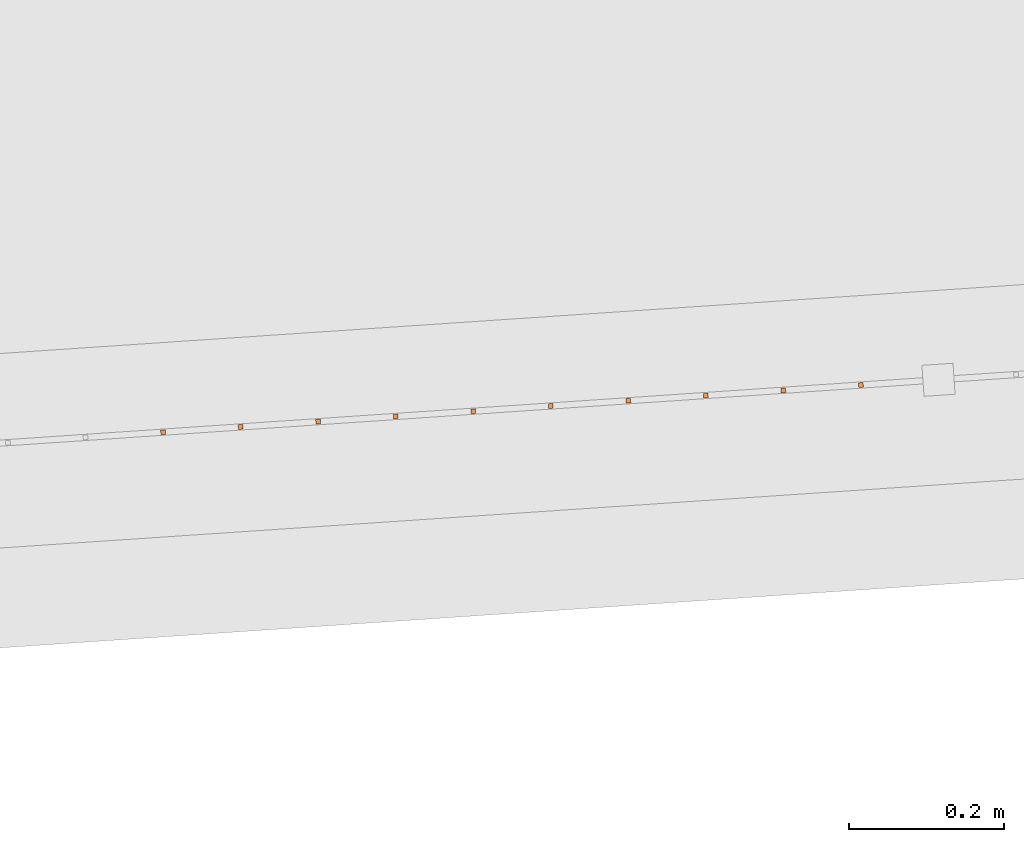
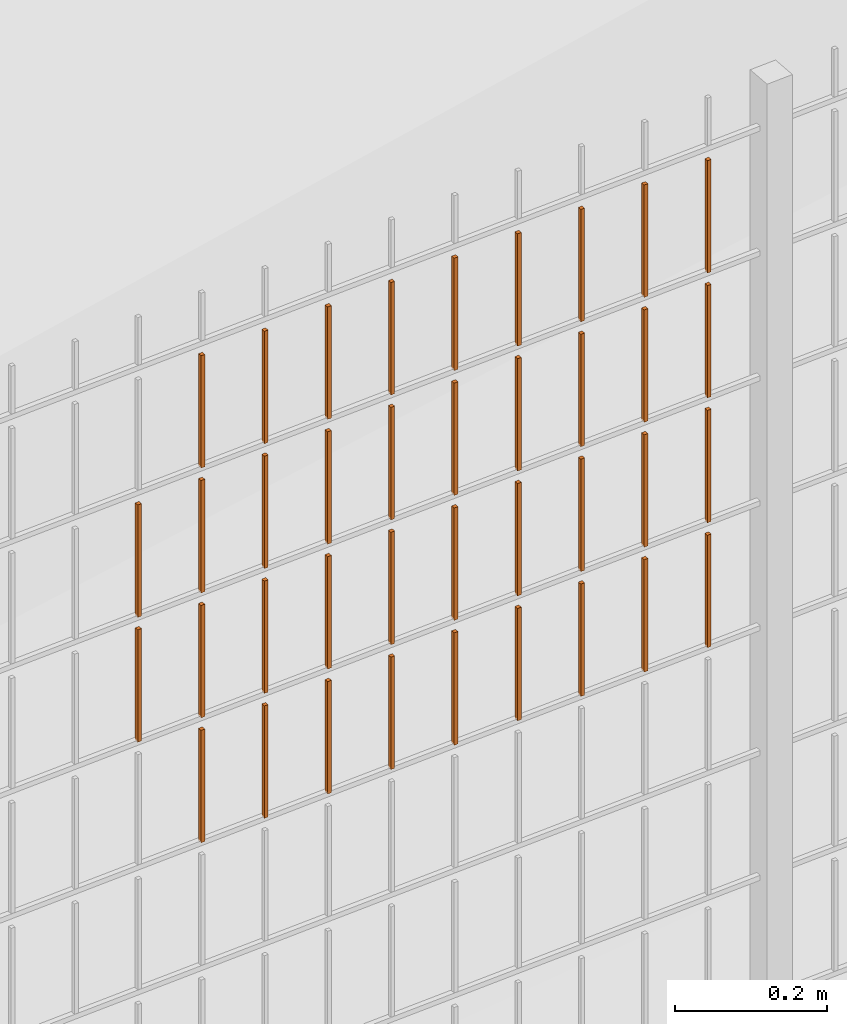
# One storey, part 110 of 1809: 38 proxies, 1 element without a shape of its own.
"""IFC2X3 building model written with IfcOpenShell, lengths in millimetres."""

from ifc_helpers import new_model, entity, si_unit, converted_unit, derived_unit, money_unit, direction, frame, origin_with_axes, place, context, subcontext, project, spatial, faceted_brep, source, transform, mapped, material, type_object, element, aggregate, save


model = new_model("IFC2X3")

# Units and contexts
model_context = context("Model", 3, precision=0.01, world=origin_with_axes(), true_north=direction((0.0, 1.0)))
body_context = subcontext(model_context, "Body", "Model", "MODEL_VIEW")
ifc_project = project(units=[si_unit("LENGTHUNIT", "METRE", prefix="MILLI"), si_unit("AREAUNIT", "SQUARE_METRE"), si_unit("VOLUMEUNIT", "CUBIC_METRE"), converted_unit("PLANEANGLEUNIT", "DEGREE", entity("IfcPlaneAngleMeasure", 0.0174532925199), si_unit("PLANEANGLEUNIT", "RADIAN"), dimensions=[0, 0, 0, 0, 0, 0, 0]), si_unit("SOLIDANGLEUNIT", "STERADIAN"), money_unit("EUR"), converted_unit("TIMEUNIT", "Year", entity("IfcTimeMeasure", 31556926.0), si_unit("TIMEUNIT", "SECOND"), dimensions=[0, 0, 1, 0, 0, 0, 0]), si_unit("MASSUNIT", "GRAM", prefix="KILO"), si_unit("THERMODYNAMICTEMPERATUREUNIT", "DEGREE_CELSIUS"), si_unit("LUMINOUSINTENSITYUNIT", "LUMEN"), si_unit("ENERGYUNIT", "JOULE", prefix="MEGA"), derived_unit("THERMALCONDUCTANCEUNIT", [(si_unit("POWERUNIT", "WATT"), 1), (si_unit("LENGTHUNIT", "METRE"), -1), (si_unit("THERMODYNAMICTEMPERATUREUNIT", "KELVIN"), -1)]), derived_unit("SPECIFICHEATCAPACITYUNIT", [(si_unit("ENERGYUNIT", "JOULE"), 1), (si_unit("MASSUNIT", "GRAM", prefix="KILO"), -1), (si_unit("THERMODYNAMICTEMPERATUREUNIT", "KELVIN"), -1)]), derived_unit("MASSDENSITYUNIT", [(si_unit("MASSUNIT", "GRAM", prefix="KILO"), 1), (si_unit("VOLUMEUNIT", "CUBIC_METRE"), -1)])], contexts=[model_context])

# Site, building, storey
site_placement = place(None, origin_with_axes())
site = spatial("IfcSite", under=ifc_project, at=site_placement, Name="Politse- ja Piirivalveameti ning Päästeameti ühishoone", CompositionType="ELEMENT")
building_placement = place(site_placement, origin_with_axes())
building = spatial("IfcBuilding", under=site, at=building_placement, Name="Politse- ja Piirivalveameti ning Päästeameti ühishoone", CompositionType="ELEMENT")
storey_placement = place(building_placement, origin_with_axes())
storey = spatial("IfcBuildingStorey", under=building, at=storey_placement, Name="Esimene korrus", CompositionType="ELEMENT", Elevation=0.0)

# Proxies
building_element_proxy_type_1 = type_object("IfcBuildingElementProxyType", Name="Railing Type", PredefinedType="NOTDEFINED")
proxy_1_placement = place(storey_placement, frame((89252.001212, -29183.4766571, 203.661247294), z_axis=(0.0, 0.0, 1.0), x_axis=(1.0, 0.0, 0.0)))
proxy_1 = element("IfcBuildingElementProxy", 1, at=proxy_1_placement, inside=storey, type_object=building_element_proxy_type_1, Name="PIIRDEAED")
ifc_material = material(Name="ET-03_Raud")
building_element_proxy_type_2 = type_object("IfcBuildingElementProxyType", Name="IfcBuildingElementProxy", PredefinedType="NOTDEFINED")
shared_shape_1 = source(origin_with_axes(), body_context, "Body", "Brep", [
    faceted_brep([(3.0, 3.0, -0.000752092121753), (-3.0, 3.0, -0.000752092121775), (-3.0, 3.0, 179.99926046), (3.0, 3.0, 179.99926046), (3.0, -3.0, 0.000752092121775), (-3.0, -3.0, 0.000752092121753), (-3.0, -3.0, 180.000764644), (3.0, -3.0, 180.000764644)], [[[0, 1, 2, 3]], [[0, 4, 5, 1]], [[1, 5, 6, 2]], [[3, 2, 6, 7]], [[4, 0, 3, 7]], [[5, 4, 7, 6]]]),
])
proxy_2_placement = place(proxy_1_placement, frame((-92416.1039948, -23540.1338207, 1204.01311808), z_axis=(0.0, 0.0, 1.0), x_axis=(1.0, 0.0, 0.0)))
proxy_2 = element("IfcBuildingElementProxy", 2, at=proxy_2_placement, type_object=building_element_proxy_type_2, material=ifc_material, Name="BALUSTER - 001", context=body_context, shape_type="MappedRepresentation", body=[
    mapped(shared_shape_1, transform((0.0, 0.0, 0.0), x_axis=(-0.0673926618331, 0.997726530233, 0.0), y_axis=(-0.997726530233, -0.0673926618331, 0.0), z_axis=(0.0, 0.0, 1.0))),
])
shared_shape_2 = source(origin_with_axes(), body_context, "Body", "Brep", [
    faceted_brep([(3.0, 3.0, -0.000752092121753), (-3.0, 3.0, -0.000752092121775), (-3.0, 3.0, 179.99926046), (3.0, 3.0, 179.99926046), (3.0, -3.0, 0.000752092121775), (-3.0, -3.0, 0.000752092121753), (-3.0, -3.0, 180.000764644), (3.0, -3.0, 180.000764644)], [[[0, 1, 2, 3]], [[0, 4, 5, 1]], [[1, 5, 6, 2]], [[3, 2, 6, 7]], [[4, 0, 3, 7]], [[5, 4, 7, 6]]]),
])
proxy_3_placement = place(proxy_1_placement, frame((-92416.1039948, -23540.1338207, 1804.01311808), z_axis=(0.0, 0.0, 1.0), x_axis=(1.0, 0.0, 0.0)))
proxy_3 = element("IfcBuildingElementProxy", 3, at=proxy_3_placement, type_object=building_element_proxy_type_2, material=ifc_material, Name="BALUSTER - 001", context=body_context, shape_type="MappedRepresentation", body=[
    mapped(shared_shape_2, transform((0.0, 0.0, 0.0), x_axis=(-0.0673926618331, 0.997726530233, 0.0), y_axis=(-0.997726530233, -0.0673926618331, 0.0), z_axis=(0.0, 0.0, 1.0))),
])
shared_shape_3 = source(origin_with_axes(), body_context, "Body", "Brep", [
    faceted_brep([(3.0, 3.0, -0.000752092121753), (-3.0, 3.0, -0.000752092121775), (-3.0, 3.0, 179.99926046), (3.0, 3.0, 179.99926046), (3.0, -3.0, 0.000752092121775), (-3.0, -3.0, 0.000752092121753), (-3.0, -3.0, 180.000764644), (3.0, -3.0, 180.000764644)], [[[0, 1, 2, 3]], [[0, 4, 5, 1]], [[1, 5, 6, 2]], [[3, 2, 6, 7]], [[4, 0, 3, 7]], [[5, 4, 7, 6]]]),
])
proxy_4_placement = place(proxy_1_placement, frame((-92416.1039948, -23540.1338207, 1404.01311808), z_axis=(0.0, 0.0, 1.0), x_axis=(1.0, 0.0, 0.0)))
proxy_4 = element("IfcBuildingElementProxy", 4, at=proxy_4_placement, type_object=building_element_proxy_type_2, material=ifc_material, Name="BALUSTER - 001", context=body_context, shape_type="MappedRepresentation", body=[
    mapped(shared_shape_3, transform((0.0, 0.0, 0.0), x_axis=(-0.0673926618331, 0.997726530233, 0.0), y_axis=(-0.997726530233, -0.0673926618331, 0.0), z_axis=(0.0, 0.0, 1.0))),
])
proxy_5_placement = place(proxy_1_placement, frame((-92416.1039948, -23540.1338207, 1604.01311808), z_axis=(0.0, 0.0, 1.0), x_axis=(1.0, 0.0, 0.0)))
proxy_5 = element("IfcBuildingElementProxy", 5, at=proxy_5_placement, type_object=building_element_proxy_type_2, material=ifc_material, Name="BALUSTER - 001", context=body_context, shape_type="MappedRepresentation", body=[
    mapped(shared_shape_3, transform((0.0, 0.0, 0.0), x_axis=(-0.0673926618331, 0.997726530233, 0.0), y_axis=(-0.997726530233, -0.0673926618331, 0.0), z_axis=(0.0, 0.0, 1.0))),
])
shared_shape_4 = source(origin_with_axes(), body_context, "Body", "Brep", [
    faceted_brep([(3.0, 3.0, -0.000752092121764), (-3.0, 3.0, -0.000752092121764), (-3.0, 3.0, 179.99926046), (3.0, 3.0, 179.99926046), (3.0, -3.0, 0.000752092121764), (-3.0, -3.0, 0.000752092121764), (-3.0, -3.0, 180.000764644), (3.0, -3.0, 180.000764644)], [[[0, 1, 2, 3]], [[0, 4, 5, 1]], [[1, 5, 6, 2]], [[3, 2, 6, 7]], [[4, 0, 3, 7]], [[5, 4, 7, 6]]]),
])
proxy_6_placement = place(proxy_1_placement, frame((-92316.3313417, -23533.3945545, 1804.03818782), z_axis=(0.0, 0.0, 1.0), x_axis=(1.0, 0.0, 0.0)))
proxy_6 = element("IfcBuildingElementProxy", 6, at=proxy_6_placement, type_object=building_element_proxy_type_2, material=ifc_material, Name="BALUSTER - 001", context=body_context, shape_type="MappedRepresentation", body=[
    mapped(shared_shape_4, transform((0.0, 0.0, 0.0), x_axis=(-0.0673926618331, 0.997726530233, 0.0), y_axis=(-0.997726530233, -0.0673926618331, 0.0), z_axis=(0.0, 0.0, 1.0))),
])
shared_shape_5 = source(origin_with_axes(), body_context, "Body", "Brep", [
    faceted_brep([(3.0, 3.0, -0.000752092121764), (-3.0, 3.0, -0.000752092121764), (-3.0, 3.0, 179.99926046), (3.0, 3.0, 179.99926046), (3.0, -3.0, 0.000752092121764), (-3.0, -3.0, 0.000752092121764), (-3.0, -3.0, 180.000764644), (3.0, -3.0, 180.000764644)], [[[0, 1, 2, 3]], [[0, 4, 5, 1]], [[1, 5, 6, 2]], [[3, 2, 6, 7]], [[4, 0, 3, 7]], [[5, 4, 7, 6]]]),
])
proxy_7_placement = place(proxy_1_placement, frame((-92316.3313417, -23533.3945545, 1204.03818782), z_axis=(0.0, 0.0, 1.0), x_axis=(1.0, 0.0, 0.0)))
proxy_7 = element("IfcBuildingElementProxy", 7, at=proxy_7_placement, type_object=building_element_proxy_type_2, material=ifc_material, Name="BALUSTER - 001", context=body_context, shape_type="MappedRepresentation", body=[
    mapped(shared_shape_5, transform((0.0, 0.0, 0.0), x_axis=(-0.0673926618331, 0.997726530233, 0.0), y_axis=(-0.997726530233, -0.0673926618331, 0.0), z_axis=(0.0, 0.0, 1.0))),
])
shared_shape_6 = source(origin_with_axes(), body_context, "Body", "Brep", [
    faceted_brep([(3.0, 3.0, -0.000752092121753), (-3.0, 3.0, -0.000752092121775), (-3.0, 3.0, 179.99926046), (3.0, 3.0, 179.99926046), (3.0, -3.0, 0.000752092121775), (-3.0, -3.0, 0.000752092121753), (-3.0, -3.0, 180.000764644), (3.0, -3.0, 180.000764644)], [[[0, 1, 2, 3]], [[0, 4, 5, 1]], [[1, 5, 6, 2]], [[3, 2, 6, 7]], [[4, 0, 3, 7]], [[5, 4, 7, 6]]]),
])
proxy_8_placement = place(proxy_1_placement, frame((-92615.6493008, -23553.612353, 1203.96297861), z_axis=(0.0, 0.0, 1.0), x_axis=(1.0, 0.0, 0.0)))
proxy_8 = element("IfcBuildingElementProxy", 8, at=proxy_8_placement, type_object=building_element_proxy_type_2, material=ifc_material, Name="BALUSTER - 001", context=body_context, shape_type="MappedRepresentation", body=[
    mapped(shared_shape_6, transform((0.0, 0.0, 0.0), x_axis=(-0.0673926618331, 0.997726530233, 0.0), y_axis=(-0.997726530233, -0.0673926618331, 0.0), z_axis=(0.0, 0.0, 1.0))),
])
shared_shape_7 = source(origin_with_axes(), body_context, "Body", "Brep", [
    faceted_brep([(3.0, 3.0, -0.000752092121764), (-3.0, 3.0, -0.000752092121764), (-3.0, 3.0, 179.99926046), (3.0, 3.0, 179.99926046), (3.0, -3.0, 0.000752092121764), (-3.0, -3.0, 0.000752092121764), (-3.0, -3.0, 180.000764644), (3.0, -3.0, 180.000764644)], [[[0, 1, 2, 3]], [[0, 4, 5, 1]], [[1, 5, 6, 2]], [[3, 2, 6, 7]], [[4, 0, 3, 7]], [[5, 4, 7, 6]]]),
])
proxy_9_placement = place(proxy_1_placement, frame((-92316.3313417, -23533.3945545, 1404.03818782), z_axis=(0.0, 0.0, 1.0), x_axis=(1.0, 0.0, 0.0)))
proxy_9 = element("IfcBuildingElementProxy", 9, at=proxy_9_placement, type_object=building_element_proxy_type_2, material=ifc_material, Name="BALUSTER - 001", context=body_context, shape_type="MappedRepresentation", body=[
    mapped(shared_shape_7, transform((0.0, 0.0, 0.0), x_axis=(-0.0673926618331, 0.997726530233, 0.0), y_axis=(-0.997726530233, -0.0673926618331, 0.0), z_axis=(0.0, 0.0, 1.0))),
])
proxy_10_placement = place(proxy_1_placement, frame((-92316.3313417, -23533.3945545, 1604.03818782), z_axis=(0.0, 0.0, 1.0), x_axis=(1.0, 0.0, 0.0)))
proxy_10 = element("IfcBuildingElementProxy", 10, at=proxy_10_placement, type_object=building_element_proxy_type_2, material=ifc_material, Name="BALUSTER - 001", context=body_context, shape_type="MappedRepresentation", body=[
    mapped(shared_shape_7, transform((0.0, 0.0, 0.0), x_axis=(-0.0673926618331, 0.997726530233, 0.0), y_axis=(-0.997726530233, -0.0673926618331, 0.0), z_axis=(0.0, 0.0, 1.0))),
])
shared_shape_8 = source(origin_with_axes(), body_context, "Body", "Brep", [
    faceted_brep([(3.0, 3.0, -0.000752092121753), (-3.0, 3.0, -0.000752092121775), (-3.0, 3.0, 179.99926046), (3.0, 3.0, 179.99926046), (3.0, -3.0, 0.000752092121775), (-3.0, -3.0, 0.000752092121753), (-3.0, -3.0, 180.000764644), (3.0, -3.0, 180.000764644)], [[[0, 1, 2, 3]], [[0, 4, 5, 1]], [[1, 5, 6, 2]], [[3, 2, 6, 7]], [[4, 0, 3, 7]], [[5, 4, 7, 6]]]),
])
proxy_11_placement = place(proxy_1_placement, frame((-92615.6493008, -23553.612353, 1403.96297861), z_axis=(0.0, 0.0, 1.0), x_axis=(1.0, 0.0, 0.0)))
proxy_11 = element("IfcBuildingElementProxy", 11, at=proxy_11_placement, type_object=building_element_proxy_type_2, material=ifc_material, Name="BALUSTER - 001", context=body_context, shape_type="MappedRepresentation", body=[
    mapped(shared_shape_8, transform((0.0, 0.0, 0.0), x_axis=(-0.0673926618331, 0.997726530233, 0.0), y_axis=(-0.997726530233, -0.0673926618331, 0.0), z_axis=(0.0, 0.0, 1.0))),
])
proxy_12_placement = place(proxy_1_placement, frame((-92615.6493008, -23553.612353, 1603.96297861), z_axis=(0.0, 0.0, 1.0), x_axis=(1.0, 0.0, 0.0)))
proxy_12 = element("IfcBuildingElementProxy", 12, at=proxy_12_placement, type_object=building_element_proxy_type_2, material=ifc_material, Name="BALUSTER - 001", context=body_context, shape_type="MappedRepresentation", body=[
    mapped(shared_shape_8, transform((0.0, 0.0, 0.0), x_axis=(-0.0673926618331, 0.997726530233, 0.0), y_axis=(-0.997726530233, -0.0673926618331, 0.0), z_axis=(0.0, 0.0, 1.0))),
])
shared_shape_9 = source(origin_with_axes(), body_context, "Body", "Brep", [
    faceted_brep([(3.0, 3.0, -0.000752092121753), (-3.0, 3.0, -0.000752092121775), (-3.0, 3.0, 179.99926046), (3.0, 3.0, 179.99926046), (3.0, -3.0, 0.000752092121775), (-3.0, -3.0, 0.000752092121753), (-3.0, -3.0, 180.000764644), (3.0, -3.0, 180.000764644)], [[[0, 1, 2, 3]], [[0, 4, 5, 1]], [[1, 5, 6, 2]], [[3, 2, 6, 7]], [[4, 0, 3, 7]], [[5, 4, 7, 6]]]),
])
proxy_13_placement = place(proxy_1_placement, frame((-92815.1946069, -23567.0908854, 1203.91283913), z_axis=(0.0, 0.0, 1.0), x_axis=(1.0, 0.0, 0.0)))
proxy_13 = element("IfcBuildingElementProxy", 13, at=proxy_13_placement, type_object=building_element_proxy_type_2, material=ifc_material, Name="BALUSTER - 001", context=body_context, shape_type="MappedRepresentation", body=[
    mapped(shared_shape_9, transform((0.0, 0.0, 0.0), x_axis=(-0.0673926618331, 0.997726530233, 0.0), y_axis=(-0.997726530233, -0.0673926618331, 0.0), z_axis=(0.0, 0.0, 1.0))),
])
proxy_14_placement = place(proxy_1_placement, frame((-92615.6493008, -23553.612353, 1803.96297861), z_axis=(0.0, 0.0, 1.0), x_axis=(1.0, 0.0, 0.0)))
proxy_14 = element("IfcBuildingElementProxy", 14, at=proxy_14_placement, type_object=building_element_proxy_type_2, material=ifc_material, Name="BALUSTER - 001", context=body_context, shape_type="MappedRepresentation", body=[
    mapped(shared_shape_9, transform((0.0, 0.0, 0.0), x_axis=(-0.0673926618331, 0.997726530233, 0.0), y_axis=(-0.997726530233, -0.0673926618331, 0.0), z_axis=(0.0, 0.0, 1.0))),
])
shared_shape_10 = source(origin_with_axes(), body_context, "Body", "Brep", [
    faceted_brep([(3.0, 3.0, -0.000752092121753), (-3.0, 3.0, -0.000752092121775), (-3.0, 3.0, 179.99926046), (3.0, 3.0, 179.99926046), (3.0, -3.0, 0.000752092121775), (-3.0, -3.0, 0.000752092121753), (-3.0, -3.0, 180.000764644), (3.0, -3.0, 180.000764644)], [[[0, 1, 2, 3]], [[0, 4, 5, 1]], [[1, 5, 6, 2]], [[3, 2, 6, 7]], [[4, 0, 3, 7]], [[5, 4, 7, 6]]]),
])
proxy_15_placement = place(proxy_1_placement, frame((-92815.1946069, -23567.0908854, 1803.91283913), z_axis=(0.0, 0.0, 1.0), x_axis=(1.0, 0.0, 0.0)))
proxy_15 = element("IfcBuildingElementProxy", 15, at=proxy_15_placement, type_object=building_element_proxy_type_2, material=ifc_material, Name="BALUSTER - 001", context=body_context, shape_type="MappedRepresentation", body=[
    mapped(shared_shape_10, transform((0.0, 0.0, 0.0), x_axis=(-0.0673926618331, 0.997726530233, 0.0), y_axis=(-0.997726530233, -0.0673926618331, 0.0), z_axis=(0.0, 0.0, 1.0))),
])
shared_shape_11 = source(origin_with_axes(), body_context, "Body", "Brep", [
    faceted_brep([(3.0, 3.0, -0.000752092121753), (-3.0, 3.0, -0.000752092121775), (-3.0, 3.0, 179.99926046), (3.0, 3.0, 179.99926046), (3.0, -3.0, 0.000752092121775), (-3.0, -3.0, 0.000752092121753), (-3.0, -3.0, 180.000764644), (3.0, -3.0, 180.000764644)], [[[0, 1, 2, 3]], [[0, 4, 5, 1]], [[1, 5, 6, 2]], [[3, 2, 6, 7]], [[4, 0, 3, 7]], [[5, 4, 7, 6]]]),
])
proxy_16_placement = place(proxy_1_placement, frame((-92815.1946069, -23567.0908854, 1403.91283913), z_axis=(0.0, 0.0, 1.0), x_axis=(1.0, 0.0, 0.0)))
proxy_16 = element("IfcBuildingElementProxy", 16, at=proxy_16_placement, type_object=building_element_proxy_type_2, material=ifc_material, Name="BALUSTER - 001", context=body_context, shape_type="MappedRepresentation", body=[
    mapped(shared_shape_11, transform((0.0, 0.0, 0.0), x_axis=(-0.0673926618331, 0.997726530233, 0.0), y_axis=(-0.997726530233, -0.0673926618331, 0.0), z_axis=(0.0, 0.0, 1.0))),
])
proxy_17_placement = place(proxy_1_placement, frame((-92815.1946069, -23567.0908854, 1603.91283913), z_axis=(0.0, 0.0, 1.0), x_axis=(1.0, 0.0, 0.0)))
proxy_17 = element("IfcBuildingElementProxy", 17, at=proxy_17_placement, type_object=building_element_proxy_type_2, material=ifc_material, Name="BALUSTER - 001", context=body_context, shape_type="MappedRepresentation", body=[
    mapped(shared_shape_11, transform((0.0, 0.0, 0.0), x_axis=(-0.0673926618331, 0.997726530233, 0.0), y_axis=(-0.997726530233, -0.0673926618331, 0.0), z_axis=(0.0, 0.0, 1.0))),
])
shared_shape_12 = source(origin_with_axes(), body_context, "Body", "Brep", [
    faceted_brep([(3.0, 3.0, -0.000752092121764), (-3.0, 3.0, -0.000752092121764), (-3.0, 3.0, 179.99926046), (3.0, 3.0, 179.99926046), (3.0, -3.0, 0.000752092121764), (-3.0, -3.0, 0.000752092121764), (-3.0, -3.0, 180.000764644), (3.0, -3.0, 180.000764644)], [[[0, 1, 2, 3]], [[0, 4, 5, 1]], [[1, 5, 6, 2]], [[3, 2, 6, 7]], [[4, 0, 3, 7]], [[5, 4, 7, 6]]]),
])
proxy_18_placement = place(proxy_1_placement, frame((-93014.7399129, -23580.5694178, 1803.86269966), z_axis=(0.0, 0.0, 1.0), x_axis=(1.0, 0.0, 0.0)))
proxy_18 = element("IfcBuildingElementProxy", 18, at=proxy_18_placement, type_object=building_element_proxy_type_2, material=ifc_material, Name="BALUSTER - 001", context=body_context, shape_type="MappedRepresentation", body=[
    mapped(shared_shape_12, transform((0.0, 0.0, 0.0), x_axis=(-0.0673926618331, 0.997726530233, 0.0), y_axis=(-0.997726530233, -0.0673926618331, 0.0), z_axis=(0.0, 0.0, 1.0))),
])
shared_shape_13 = source(origin_with_axes(), body_context, "Body", "Brep", [
    faceted_brep([(3.0, 3.0, -0.000752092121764), (-3.0, 3.0, -0.000752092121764), (-3.0, 3.0, 179.99926046), (3.0, 3.0, 179.99926046), (3.0, -3.0, 0.000752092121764), (-3.0, -3.0, 0.000752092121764), (-3.0, -3.0, 180.000764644), (3.0, -3.0, 180.000764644)], [[[0, 1, 2, 3]], [[0, 4, 5, 1]], [[1, 5, 6, 2]], [[3, 2, 6, 7]], [[4, 0, 3, 7]], [[5, 4, 7, 6]]]),
])
proxy_19_placement = place(proxy_1_placement, frame((-93014.7399129, -23580.5694178, 1203.86269966), z_axis=(0.0, 0.0, 1.0), x_axis=(1.0, 0.0, 0.0)))
proxy_19 = element("IfcBuildingElementProxy", 19, at=proxy_19_placement, type_object=building_element_proxy_type_2, material=ifc_material, Name="BALUSTER - 001", context=body_context, shape_type="MappedRepresentation", body=[
    mapped(shared_shape_13, transform((0.0, 0.0, 0.0), x_axis=(-0.0673926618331, 0.997726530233, 0.0), y_axis=(-0.997726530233, -0.0673926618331, 0.0), z_axis=(0.0, 0.0, 1.0))),
])
shared_shape_14 = source(origin_with_axes(), body_context, "Body", "Brep", [
    faceted_brep([(3.0, 3.0, -0.000752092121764), (-3.0, 3.0, -0.000752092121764), (-3.0, 3.0, 179.99926046), (3.0, 3.0, 179.99926046), (3.0, -3.0, 0.000752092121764), (-3.0, -3.0, 0.000752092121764), (-3.0, -3.0, 180.000764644), (3.0, -3.0, 180.000764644)], [[[0, 1, 2, 3]], [[0, 4, 5, 1]], [[1, 5, 6, 2]], [[3, 2, 6, 7]], [[4, 0, 3, 7]], [[5, 4, 7, 6]]]),
])
proxy_20_placement = place(proxy_1_placement, frame((-93014.7399129, -23580.5694178, 1403.86269966), z_axis=(0.0, 0.0, 1.0), x_axis=(1.0, 0.0, 0.0)))
proxy_20 = element("IfcBuildingElementProxy", 20, at=proxy_20_placement, type_object=building_element_proxy_type_2, material=ifc_material, Name="BALUSTER - 001", context=body_context, shape_type="MappedRepresentation", body=[
    mapped(shared_shape_14, transform((0.0, 0.0, 0.0), x_axis=(-0.0673926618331, 0.997726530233, 0.0), y_axis=(-0.997726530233, -0.0673926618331, 0.0), z_axis=(0.0, 0.0, 1.0))),
])
proxy_21_placement = place(proxy_1_placement, frame((-93014.7399129, -23580.5694178, 1603.86269966), z_axis=(0.0, 0.0, 1.0), x_axis=(1.0, 0.0, 0.0)))
proxy_21 = element("IfcBuildingElementProxy", 21, at=proxy_21_placement, type_object=building_element_proxy_type_2, material=ifc_material, Name="BALUSTER - 001", context=body_context, shape_type="MappedRepresentation", body=[
    mapped(shared_shape_14, transform((0.0, 0.0, 0.0), x_axis=(-0.0673926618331, 0.997726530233, 0.0), y_axis=(-0.997726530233, -0.0673926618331, 0.0), z_axis=(0.0, 0.0, 1.0))),
])
shared_shape_15 = source(origin_with_axes(), body_context, "Body", "Brep", [
    faceted_brep([(3.0, 3.0, -0.000752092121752), (-3.0, 3.0, -0.000752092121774), (-3.0, 3.0, 179.99926046), (3.0, 3.0, 179.99926046), (3.0, -3.0, 0.000752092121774), (-3.0, -3.0, 0.000752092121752), (-3.0, -3.0, 180.000764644), (3.0, -3.0, 180.000764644)], [[[0, 1, 2, 3]], [[0, 4, 5, 1]], [[1, 5, 6, 2]], [[3, 2, 6, 7]], [[4, 0, 3, 7]], [[5, 4, 7, 6]]]),
])
proxy_22_placement = place(proxy_1_placement, frame((-92715.4219538, -23560.3516192, 1803.93790887), z_axis=(0.0, 0.0, 1.0), x_axis=(1.0, 0.0, 0.0)))
proxy_22 = element("IfcBuildingElementProxy", 22, at=proxy_22_placement, type_object=building_element_proxy_type_2, material=ifc_material, Name="BALUSTER - 001", context=body_context, shape_type="MappedRepresentation", body=[
    mapped(shared_shape_15, transform((0.0, 0.0, 0.0), x_axis=(-0.0673926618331, 0.997726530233, 0.0), y_axis=(-0.997726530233, -0.0673926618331, 0.0), z_axis=(0.0, 0.0, 1.0))),
])
proxy_23_placement = place(proxy_1_placement, frame((-92914.9672599, -23573.8301516, 1803.88776939), z_axis=(0.0, 0.0, 1.0), x_axis=(1.0, 0.0, 0.0)))
proxy_23 = element("IfcBuildingElementProxy", 23, at=proxy_23_placement, type_object=building_element_proxy_type_2, material=ifc_material, Name="BALUSTER - 001", context=body_context, shape_type="MappedRepresentation", body=[
    mapped(shared_shape_15, transform((0.0, 0.0, 0.0), x_axis=(-0.0673926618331, 0.997726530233, 0.0), y_axis=(-0.997726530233, -0.0673926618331, 0.0), z_axis=(0.0, 0.0, 1.0))),
])
shared_shape_16 = source(origin_with_axes(), body_context, "Body", "Brep", [
    faceted_brep([(3.0, 3.0, -0.000752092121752), (-3.0, 3.0, -0.000752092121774), (-3.0, 3.0, 179.99926046), (3.0, 3.0, 179.99926046), (3.0, -3.0, 0.000752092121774), (-3.0, -3.0, 0.000752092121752), (-3.0, -3.0, 180.000764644), (3.0, -3.0, 180.000764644)], [[[0, 1, 2, 3]], [[0, 4, 5, 1]], [[1, 5, 6, 2]], [[3, 2, 6, 7]], [[4, 0, 3, 7]], [[5, 4, 7, 6]]]),
])
proxy_24_placement = place(proxy_1_placement, frame((-92914.9672599, -23573.8301516, 1203.88776939), z_axis=(0.0, 0.0, 1.0), x_axis=(1.0, 0.0, 0.0)))
proxy_24 = element("IfcBuildingElementProxy", 24, at=proxy_24_placement, type_object=building_element_proxy_type_2, material=ifc_material, Name="BALUSTER - 001", context=body_context, shape_type="MappedRepresentation", body=[
    mapped(shared_shape_16, transform((0.0, 0.0, 0.0), x_axis=(-0.0673926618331, 0.997726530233, 0.0), y_axis=(-0.997726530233, -0.0673926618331, 0.0), z_axis=(0.0, 0.0, 1.0))),
])
shared_shape_17 = source(origin_with_axes(), body_context, "Body", "Brep", [
    faceted_brep([(3.0, 3.0, -0.000752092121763), (-3.0, 3.0, -0.000752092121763), (-3.0, 3.0, 179.99926046), (3.0, 3.0, 179.99926046), (3.0, -3.0, 0.000752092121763), (-3.0, -3.0, 0.000752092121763), (-3.0, -3.0, 180.000764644), (3.0, -3.0, 180.000764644)], [[[0, 1, 2, 3]], [[0, 4, 5, 1]], [[1, 5, 6, 2]], [[3, 2, 6, 7]], [[4, 0, 3, 7]], [[5, 4, 7, 6]]]),
])
proxy_25_placement = place(proxy_1_placement, frame((-92216.5586887, -23526.6552883, 1804.06325756), z_axis=(0.0, 0.0, 1.0), x_axis=(1.0, 0.0, 0.0)))
proxy_25 = element("IfcBuildingElementProxy", 25, at=proxy_25_placement, type_object=building_element_proxy_type_2, material=ifc_material, Name="BALUSTER - 001", context=body_context, shape_type="MappedRepresentation", body=[
    mapped(shared_shape_17, transform((0.0, 0.0, 0.0), x_axis=(-0.0673926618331, 0.997726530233, 0.0), y_axis=(-0.997726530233, -0.0673926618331, 0.0), z_axis=(0.0, 0.0, 1.0))),
])
proxy_26_placement = place(proxy_1_placement, frame((-92515.8766478, -23546.8730868, 1803.98804834), z_axis=(0.0, 0.0, 1.0), x_axis=(1.0, 0.0, 0.0)))
proxy_26 = element("IfcBuildingElementProxy", 26, at=proxy_26_placement, type_object=building_element_proxy_type_2, material=ifc_material, Name="BALUSTER - 001", context=body_context, shape_type="MappedRepresentation", body=[
    mapped(shared_shape_17, transform((0.0, 0.0, 0.0), x_axis=(-0.0673926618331, 0.997726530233, 0.0), y_axis=(-0.997726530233, -0.0673926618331, 0.0), z_axis=(0.0, 0.0, 1.0))),
])
shared_shape_18 = source(origin_with_axes(), body_context, "Body", "Brep", [
    faceted_brep([(3.0, 3.0, -0.000752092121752), (-3.0, 3.0, -0.000752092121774), (-3.0, 3.0, 179.99926046), (3.0, 3.0, 179.99926046), (3.0, -3.0, 0.000752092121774), (-3.0, -3.0, 0.000752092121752), (-3.0, -3.0, 180.000764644), (3.0, -3.0, 180.000764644)], [[[0, 1, 2, 3]], [[0, 4, 5, 1]], [[1, 5, 6, 2]], [[3, 2, 6, 7]], [[4, 0, 3, 7]], [[5, 4, 7, 6]]]),
])
proxy_27_placement = place(proxy_1_placement, frame((-92715.4219538, -23560.3516192, 1203.93790887), z_axis=(0.0, 0.0, 1.0), x_axis=(1.0, 0.0, 0.0)))
proxy_27 = element("IfcBuildingElementProxy", 27, at=proxy_27_placement, type_object=building_element_proxy_type_2, material=ifc_material, Name="BALUSTER - 001", context=body_context, shape_type="MappedRepresentation", body=[
    mapped(shared_shape_18, transform((0.0, 0.0, 0.0), x_axis=(-0.0673926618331, 0.997726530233, 0.0), y_axis=(-0.997726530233, -0.0673926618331, 0.0), z_axis=(0.0, 0.0, 1.0))),
])
shared_shape_19 = source(origin_with_axes(), body_context, "Body", "Brep", [
    faceted_brep([(3.0, 3.0, -0.000752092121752), (-3.0, 3.0, -0.000752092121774), (-3.0, 3.0, 179.99926046), (3.0, 3.0, 179.99926046), (3.0, -3.0, 0.000752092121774), (-3.0, -3.0, 0.000752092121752), (-3.0, -3.0, 180.000764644), (3.0, -3.0, 180.000764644)], [[[0, 1, 2, 3]], [[0, 4, 5, 1]], [[1, 5, 6, 2]], [[3, 2, 6, 7]], [[4, 0, 3, 7]], [[5, 4, 7, 6]]]),
])
proxy_28_placement = place(proxy_1_placement, frame((-92914.9672599, -23573.8301516, 1403.88776939), z_axis=(0.0, 0.0, 1.0), x_axis=(1.0, 0.0, 0.0)))
proxy_28 = element("IfcBuildingElementProxy", 28, at=proxy_28_placement, type_object=building_element_proxy_type_2, material=ifc_material, Name="BALUSTER - 001", context=body_context, shape_type="MappedRepresentation", body=[
    mapped(shared_shape_19, transform((0.0, 0.0, 0.0), x_axis=(-0.0673926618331, 0.997726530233, 0.0), y_axis=(-0.997726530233, -0.0673926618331, 0.0), z_axis=(0.0, 0.0, 1.0))),
])
proxy_29_placement = place(proxy_1_placement, frame((-92914.9672599, -23573.8301516, 1603.88776939), z_axis=(0.0, 0.0, 1.0), x_axis=(1.0, 0.0, 0.0)))
proxy_29 = element("IfcBuildingElementProxy", 29, at=proxy_29_placement, type_object=building_element_proxy_type_2, material=ifc_material, Name="BALUSTER - 001", context=body_context, shape_type="MappedRepresentation", body=[
    mapped(shared_shape_19, transform((0.0, 0.0, 0.0), x_axis=(-0.0673926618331, 0.997726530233, 0.0), y_axis=(-0.997726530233, -0.0673926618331, 0.0), z_axis=(0.0, 0.0, 1.0))),
])
shared_shape_20 = source(origin_with_axes(), body_context, "Body", "Brep", [
    faceted_brep([(3.0, 3.0, -0.000752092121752), (-3.0, 3.0, -0.000752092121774), (-3.0, 3.0, 179.99926046), (3.0, 3.0, 179.99926046), (3.0, -3.0, 0.000752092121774), (-3.0, -3.0, 0.000752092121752), (-3.0, -3.0, 180.000764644), (3.0, -3.0, 180.000764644)], [[[0, 1, 2, 3]], [[0, 4, 5, 1]], [[1, 5, 6, 2]], [[3, 2, 6, 7]], [[4, 0, 3, 7]], [[5, 4, 7, 6]]]),
])
proxy_30_placement = place(proxy_1_placement, frame((-92715.4219538, -23560.3516192, 1403.93790887), z_axis=(0.0, 0.0, 1.0), x_axis=(1.0, 0.0, 0.0)))
proxy_30 = element("IfcBuildingElementProxy", 30, at=proxy_30_placement, type_object=building_element_proxy_type_2, material=ifc_material, Name="BALUSTER - 001", context=body_context, shape_type="MappedRepresentation", body=[
    mapped(shared_shape_20, transform((0.0, 0.0, 0.0), x_axis=(-0.0673926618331, 0.997726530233, 0.0), y_axis=(-0.997726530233, -0.0673926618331, 0.0), z_axis=(0.0, 0.0, 1.0))),
])
proxy_31_placement = place(proxy_1_placement, frame((-92715.4219538, -23560.3516192, 1603.93790887), z_axis=(0.0, 0.0, 1.0), x_axis=(1.0, 0.0, 0.0)))
proxy_31 = element("IfcBuildingElementProxy", 31, at=proxy_31_placement, type_object=building_element_proxy_type_2, material=ifc_material, Name="BALUSTER - 001", context=body_context, shape_type="MappedRepresentation", body=[
    mapped(shared_shape_20, transform((0.0, 0.0, 0.0), x_axis=(-0.0673926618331, 0.997726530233, 0.0), y_axis=(-0.997726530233, -0.0673926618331, 0.0), z_axis=(0.0, 0.0, 1.0))),
])
shared_shape_21 = source(origin_with_axes(), body_context, "Body", "Brep", [
    faceted_brep([(3.0, 3.0, -0.000752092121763), (-3.0, 3.0, -0.000752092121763), (-3.0, 3.0, 179.99926046), (3.0, 3.0, 179.99926046), (3.0, -3.0, 0.000752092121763), (-3.0, -3.0, 0.000752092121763), (-3.0, -3.0, 180.000764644), (3.0, -3.0, 180.000764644)], [[[0, 1, 2, 3]], [[0, 4, 5, 1]], [[1, 5, 6, 2]], [[3, 2, 6, 7]], [[4, 0, 3, 7]], [[5, 4, 7, 6]]]),
])
proxy_32_placement = place(proxy_1_placement, frame((-92216.5586887, -23526.6552883, 1204.06325756), z_axis=(0.0, 0.0, 1.0), x_axis=(1.0, 0.0, 0.0)))
proxy_32 = element("IfcBuildingElementProxy", 32, at=proxy_32_placement, type_object=building_element_proxy_type_2, material=ifc_material, Name="BALUSTER - 001", context=body_context, shape_type="MappedRepresentation", body=[
    mapped(shared_shape_21, transform((0.0, 0.0, 0.0), x_axis=(-0.0673926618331, 0.997726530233, 0.0), y_axis=(-0.997726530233, -0.0673926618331, 0.0), z_axis=(0.0, 0.0, 1.0))),
])
proxy_33_placement = place(proxy_1_placement, frame((-92515.8766478, -23546.8730868, 1203.98804834), z_axis=(0.0, 0.0, 1.0), x_axis=(1.0, 0.0, 0.0)))
proxy_33 = element("IfcBuildingElementProxy", 33, at=proxy_33_placement, type_object=building_element_proxy_type_2, material=ifc_material, Name="BALUSTER - 001", context=body_context, shape_type="MappedRepresentation", body=[
    mapped(shared_shape_21, transform((0.0, 0.0, 0.0), x_axis=(-0.0673926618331, 0.997726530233, 0.0), y_axis=(-0.997726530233, -0.0673926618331, 0.0), z_axis=(0.0, 0.0, 1.0))),
])
shared_shape_22 = source(origin_with_axes(), body_context, "Body", "Brep", [
    faceted_brep([(3.0, 3.0, -0.000752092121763), (-3.0, 3.0, -0.000752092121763), (-3.0, 3.0, 179.99926046), (3.0, 3.0, 179.99926046), (3.0, -3.0, 0.000752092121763), (-3.0, -3.0, 0.000752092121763), (-3.0, -3.0, 180.000764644), (3.0, -3.0, 180.000764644)], [[[0, 1, 2, 3]], [[0, 4, 5, 1]], [[1, 5, 6, 2]], [[3, 2, 6, 7]], [[4, 0, 3, 7]], [[5, 4, 7, 6]]]),
])
proxy_34_placement = place(proxy_1_placement, frame((-92216.5586887, -23526.6552883, 1404.06325756), z_axis=(0.0, 0.0, 1.0), x_axis=(1.0, 0.0, 0.0)))
proxy_34 = element("IfcBuildingElementProxy", 34, at=proxy_34_placement, type_object=building_element_proxy_type_2, material=ifc_material, Name="BALUSTER - 001", context=body_context, shape_type="MappedRepresentation", body=[
    mapped(shared_shape_22, transform((0.0, 0.0, 0.0), x_axis=(-0.0673926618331, 0.997726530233, 0.0), y_axis=(-0.997726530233, -0.0673926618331, 0.0), z_axis=(0.0, 0.0, 1.0))),
])
proxy_35_placement = place(proxy_1_placement, frame((-92515.8766478, -23546.8730868, 1403.98804834), z_axis=(0.0, 0.0, 1.0), x_axis=(1.0, 0.0, 0.0)))
proxy_35 = element("IfcBuildingElementProxy", 35, at=proxy_35_placement, type_object=building_element_proxy_type_2, material=ifc_material, Name="BALUSTER - 001", context=body_context, shape_type="MappedRepresentation", body=[
    mapped(shared_shape_22, transform((0.0, 0.0, 0.0), x_axis=(-0.0673926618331, 0.997726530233, 0.0), y_axis=(-0.997726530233, -0.0673926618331, 0.0), z_axis=(0.0, 0.0, 1.0))),
])
proxy_36_placement = place(proxy_1_placement, frame((-92216.5586887, -23526.6552883, 1604.06325756), z_axis=(0.0, 0.0, 1.0), x_axis=(1.0, 0.0, 0.0)))
proxy_36 = element("IfcBuildingElementProxy", 36, at=proxy_36_placement, type_object=building_element_proxy_type_2, material=ifc_material, Name="BALUSTER - 001", context=body_context, shape_type="MappedRepresentation", body=[
    mapped(shared_shape_22, transform((0.0, 0.0, 0.0), x_axis=(-0.0673926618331, 0.997726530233, 0.0), y_axis=(-0.997726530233, -0.0673926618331, 0.0), z_axis=(0.0, 0.0, 1.0))),
])
proxy_37_placement = place(proxy_1_placement, frame((-92515.8766478, -23546.8730868, 1603.98804834), z_axis=(0.0, 0.0, 1.0), x_axis=(1.0, 0.0, 0.0)))
proxy_37 = element("IfcBuildingElementProxy", 37, at=proxy_37_placement, type_object=building_element_proxy_type_2, material=ifc_material, Name="BALUSTER - 001", context=body_context, shape_type="MappedRepresentation", body=[
    mapped(shared_shape_22, transform((0.0, 0.0, 0.0), x_axis=(-0.0673926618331, 0.997726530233, 0.0), y_axis=(-0.997726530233, -0.0673926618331, 0.0), z_axis=(0.0, 0.0, 1.0))),
])
shared_shape_23 = source(origin_with_axes(), body_context, "Body", "Brep", [
    faceted_brep([(3.0, 3.0, -0.000752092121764), (-3.0, 3.0, -0.000752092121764), (-3.0, 3.0, 179.99926046), (3.0, 3.0, 179.99926046), (3.0, -3.0, 0.000752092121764), (-3.0, -3.0, 0.000752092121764), (-3.0, -3.0, 180.000764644), (3.0, -3.0, 180.000764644)], [[[0, 1, 2, 3]], [[0, 4, 5, 1]], [[1, 5, 6, 2]], [[3, 2, 6, 7]], [[4, 0, 3, 7]], [[5, 4, 7, 6]]]),
])
proxy_38_placement = place(proxy_1_placement, frame((-93114.5125659, -23587.3086839, 1403.83762992), z_axis=(0.0, 0.0, 1.0), x_axis=(1.0, 0.0, 0.0)))
proxy_38 = element("IfcBuildingElementProxy", 38, at=proxy_38_placement, type_object=building_element_proxy_type_2, material=ifc_material, Name="BALUSTER - 001", context=body_context, shape_type="MappedRepresentation", body=[
    mapped(shared_shape_23, transform((0.0, 0.0, 0.0), x_axis=(-0.0673926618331, 0.997726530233, 0.0), y_axis=(-0.997726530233, -0.0673926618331, 0.0), z_axis=(0.0, 0.0, 1.0))),
])
proxy_39_placement = place(proxy_1_placement, frame((-93114.5125659, -23587.3086839, 1603.83762992), z_axis=(0.0, 0.0, 1.0), x_axis=(1.0, 0.0, 0.0)))
proxy_39 = element("IfcBuildingElementProxy", 39, at=proxy_39_placement, type_object=building_element_proxy_type_2, material=ifc_material, Name="BALUSTER - 001", context=body_context, shape_type="MappedRepresentation", body=[
    mapped(shared_shape_23, transform((0.0, 0.0, 0.0), x_axis=(-0.0673926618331, 0.997726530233, 0.0), y_axis=(-0.997726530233, -0.0673926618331, 0.0), z_axis=(0.0, 0.0, 1.0))),
])
aggregate(proxy_1, [proxy_32, proxy_7, proxy_2, proxy_33, proxy_8, proxy_27, proxy_13, proxy_24, proxy_19, proxy_34, proxy_9, proxy_4, proxy_35, proxy_11, proxy_30, proxy_16, proxy_28, proxy_20, proxy_38, proxy_36, proxy_10, proxy_5, proxy_37, proxy_12, proxy_31, proxy_17, proxy_29, proxy_21, proxy_39, proxy_25, proxy_6, proxy_3, proxy_26, proxy_14, proxy_22, proxy_15, proxy_23, proxy_18])

save(model, "model.ifc")
